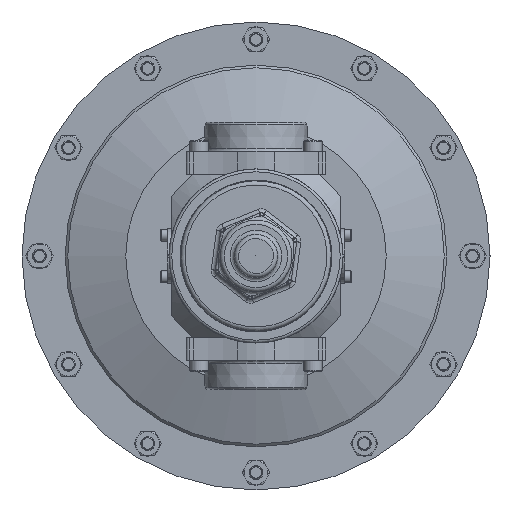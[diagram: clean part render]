
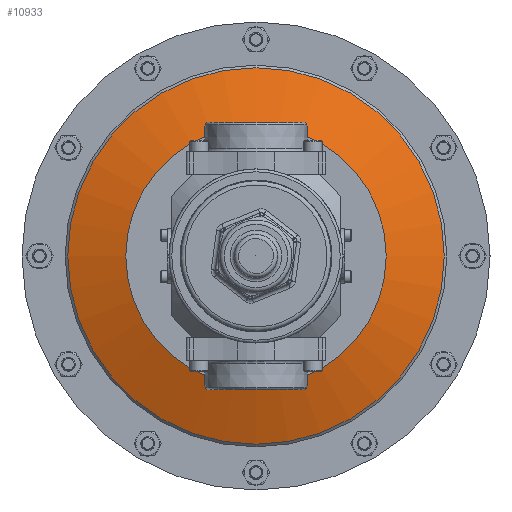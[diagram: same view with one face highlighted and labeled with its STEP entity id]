
A CAD part, front view. The second image highlights one B-rep face of the part: STEP entity #10933.
In plain terms, the highlighted conical face has half-angle 70 degrees and reference radius 114.332 mm.
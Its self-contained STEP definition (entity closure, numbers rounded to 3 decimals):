
#10888=CARTESIAN_POINT('',(-93.5,5.5,0.));
#10889=VERTEX_POINT('',#10888);
#10890=CARTESIAN_POINT('',(0.,5.5,0.));
#10891=DIRECTION('',(0.0,1.0,0.0));
#10892=DIRECTION('',(-1.0,0.0,0.0));
#10893=AXIS2_PLACEMENT_3D('',#10890,#10891,#10892);
#10894=CIRCLE('',#10893,93.5);
#10895=EDGE_CURVE('',#10889,#10889,#10894,.T.);
#10914=CARTESIAN_POINT('',(0.,13.082,0.));
#10915=DIRECTION('',(0.,1.0,0.));
#10916=DIRECTION('',(-1.0,0.0,0.0));
#10917=AXIS2_PLACEMENT_3D('',#10914,#10915,#10916);
#10918=CONICAL_SURFACE('',#10917,114.332,70.);
#10919=CARTESIAN_POINT('',(-135.165,20.665,0.));
#10920=VERTEX_POINT('',#10919);
#10921=CARTESIAN_POINT('',(0.,20.665,0.));
#10922=DIRECTION('',(0.0,1.0,0.0));
#10923=DIRECTION('',(-1.0,0.0,0.0));
#10924=AXIS2_PLACEMENT_3D('',#10921,#10922,#10923);
#10925=CIRCLE('',#10924,135.165);
#10926=EDGE_CURVE('',#10920,#10920,#10925,.T.);
#10927=ORIENTED_EDGE('',*,*,#10926,.F.);
#10928=EDGE_LOOP('',(#10927));
#10929=FACE_OUTER_BOUND('',#10928,.T.);
#10930=ORIENTED_EDGE('',*,*,#10895,.T.);
#10931=EDGE_LOOP('',(#10930));
#10932=FACE_BOUND('',#10931,.T.);
#10933=ADVANCED_FACE('',(#10929,#10932),#10918,.T.);
